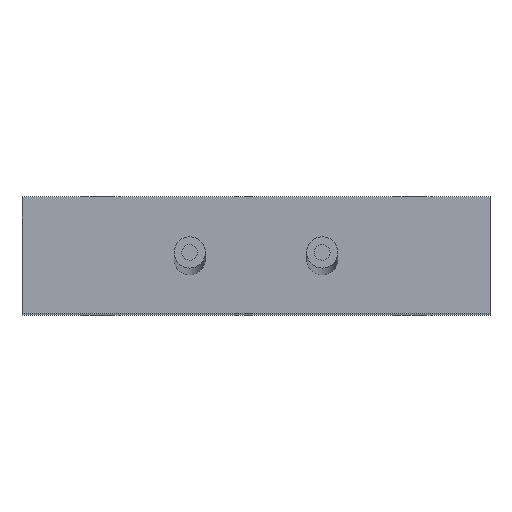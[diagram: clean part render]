
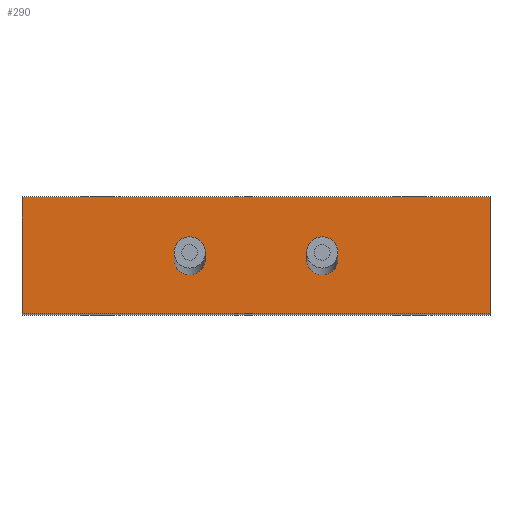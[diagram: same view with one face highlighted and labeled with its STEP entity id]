
A CAD part, top view. The second image highlights one B-rep face of the part: STEP entity #290.
In plain terms, the highlighted planar face has unit normal (0, 0, 1).
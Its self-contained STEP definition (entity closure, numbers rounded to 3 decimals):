
#13=LINE($,#440,#25);
#16=LINE($,#454,#28);
#19=LINE($,#460,#31);
#22=LINE($,#473,#34);
#25=VECTOR($,#365,15.);
#28=VECTOR($,#378,60.);
#31=VECTOR($,#383,15.);
#34=VECTOR($,#396,60.);
#45=PLANE($,#327);
#68=FACE_BOUND($,#119,.T.);
#69=FACE_BOUND($,#120,.T.);
#70=FACE_BOUND($,#121,.T.);
#119=EDGE_LOOP($,(#240));
#120=EDGE_LOOP($,(#241));
#121=EDGE_LOOP($,(#242,#243,#244,#245));
#125=CIRCLE($,#300,2.);
#129=CIRCLE($,#308,2.);
#141=VERTEX_POINT($,#420);
#145=VERTEX_POINT($,#432);
#146=VERTEX_POINT($,#436);
#148=VERTEX_POINT($,#439);
#154=VERTEX_POINT($,#453);
#156=VERTEX_POINT($,#459);
#165=EDGE_CURVE($,#141,#141,#125,.T.);
#169=EDGE_CURVE($,#145,#145,#129,.T.);
#171=EDGE_CURVE($,#148,#146,#13,.T.);
#178=EDGE_CURVE($,#154,#148,#16,.T.);
#181=EDGE_CURVE($,#156,#154,#19,.T.);
#188=EDGE_CURVE($,#146,#156,#22,.T.);
#240=ORIENTED_EDGE($,*,*,#165,.T.);
#241=ORIENTED_EDGE($,*,*,#169,.T.);
#242=ORIENTED_EDGE($,*,*,#188,.T.);
#243=ORIENTED_EDGE($,*,*,#181,.T.);
#244=ORIENTED_EDGE($,*,*,#178,.T.);
#245=ORIENTED_EDGE($,*,*,#171,.T.);
#290=ADVANCED_FACE($,(#68,#69,#70),#45,.T.);
#300=AXIS2_PLACEMENT_3D($,#421,#342,#343);
#308=AXIS2_PLACEMENT_3D($,#433,#358,#359);
#327=AXIS2_PLACEMENT_3D($,#480,#408,#409);
#342=DIRECTION('center_axis',(0.,0.,
-1.));
#343=DIRECTION('ref_axis',(-1.,0.,0.));
#358=DIRECTION('center_axis',(0.,0.,
-1.));
#359=DIRECTION('ref_axis',(-1.,0.,0.));
#365=DIRECTION($,(0.,1.,0.));
#378=DIRECTION($,(1.,0.,0.));
#383=DIRECTION($,(0.,-1.,0.));
#396=DIRECTION($,(-1.,0.,0.));
#408=DIRECTION('center_axis',(0.,0.,
1.));
#409=DIRECTION('ref_axis',(1.,0.,0.));
#420=CARTESIAN_POINT('',(61.302,0.284,66.656));
#421=CARTESIAN_POINT('Origin',(59.302,0.284,66.656));
#432=CARTESIAN_POINT('',(78.302,0.284,66.656));
#433=CARTESIAN_POINT('Origin',(76.302,0.284,66.656));
#436=CARTESIAN_POINT('',(97.802,8.284,66.656));
#439=CARTESIAN_POINT('',(97.802,-6.716,66.656));
#440=CARTESIAN_POINT($,(97.802,8.284,66.656));
#453=CARTESIAN_POINT('',(37.802,-6.716,66.656));
#454=CARTESIAN_POINT($,(97.802,-6.716,66.656));
#459=CARTESIAN_POINT('',(37.802,8.284,66.656));
#460=CARTESIAN_POINT($,(37.802,-6.716,66.656));
#473=CARTESIAN_POINT($,(37.802,8.284,66.656));
#480=CARTESIAN_POINT('Origin',(67.802,0.784,66.656));
